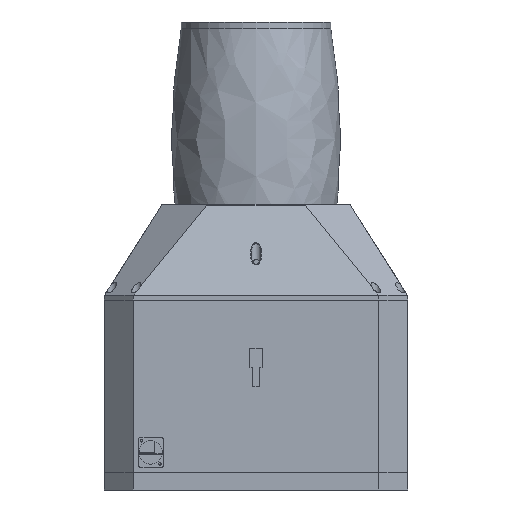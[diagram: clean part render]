
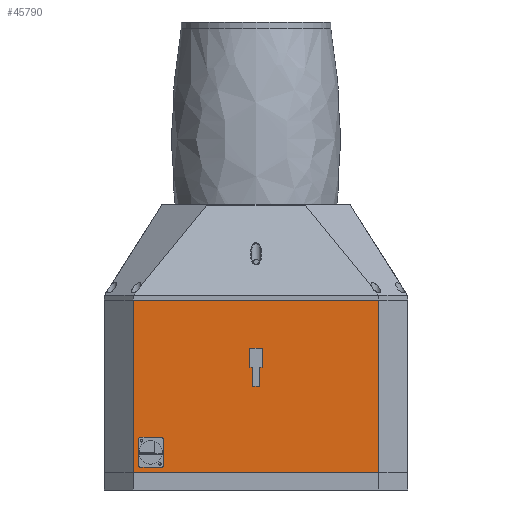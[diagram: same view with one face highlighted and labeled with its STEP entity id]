
A CAD part, left-side view. The second image highlights one B-rep face of the part: STEP entity #45790.
In plain terms, the highlighted planar face has unit normal (-1, 0, 0) as drawn and (1, 0, 0) by its records, which use the part's own axes.
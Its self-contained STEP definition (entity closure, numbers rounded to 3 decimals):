
#2791=FACE_BOUND('',#6713,.T.);
#2792=FACE_BOUND('',#6714,.T.);
#3879=FACE_OUTER_BOUND('',#6712,.T.);
#6712=EDGE_LOOP('',(#34049,#34050,#34051,#34052));
#6713=EDGE_LOOP('',(#34053,#34054,#34055,#34056,#34057,#34058,#34059,#34060));
#6714=EDGE_LOOP('',(#34061,#34062,#34063,#34064,#34065,#34066,#34067,#34068));
#9537=CIRCLE('',#49221,3.);
#9539=CIRCLE('',#49225,3.);
#9541=CIRCLE('',#49229,3.);
#9543=CIRCLE('',#49233,3.);
#11958=LINE('',#79737,#16215);
#11964=LINE('',#79752,#16221);
#11968=LINE('',#79764,#16225);
#11971=LINE('',#79773,#16228);
#11975=LINE('',#79796,#16232);
#11976=LINE('',#79798,#16233);
#11977=LINE('',#79800,#16234);
#11978=LINE('',#79801,#16235);
#11979=LINE('',#79804,#16236);
#11980=LINE('',#79806,#16237);
#11981=LINE('',#79808,#16238);
#11982=LINE('',#79810,#16239);
#11983=LINE('',#79812,#16240);
#11984=LINE('',#79814,#16241);
#11985=LINE('',#79816,#16242);
#11986=LINE('',#79817,#16243);
#16215=VECTOR('',#56138,10.);
#16221=VECTOR('',#56152,10.);
#16225=VECTOR('',#56164,10.);
#16228=VECTOR('',#56175,10.);
#16232=VECTOR('',#56201,10.);
#16233=VECTOR('',#56202,10.);
#16234=VECTOR('',#56203,10.);
#16235=VECTOR('',#56204,10.);
#16236=VECTOR('',#56205,10.);
#16237=VECTOR('',#56206,10.);
#16238=VECTOR('',#56207,10.);
#16239=VECTOR('',#56208,10.);
#16240=VECTOR('',#56209,10.);
#16241=VECTOR('',#56210,10.);
#16242=VECTOR('',#56211,10.);
#16243=VECTOR('',#56212,10.);
#20657=VERTEX_POINT('',#79730);
#20658=VERTEX_POINT('',#79732);
#20659=VERTEX_POINT('',#79736);
#20663=VERTEX_POINT('',#79745);
#20664=VERTEX_POINT('',#79747);
#20667=VERTEX_POINT('',#79757);
#20668=VERTEX_POINT('',#79759);
#20670=VERTEX_POINT('',#79768);
#20677=VERTEX_POINT('',#79794);
#20678=VERTEX_POINT('',#79795);
#20679=VERTEX_POINT('',#79797);
#20680=VERTEX_POINT('',#79799);
#20681=VERTEX_POINT('',#79802);
#20682=VERTEX_POINT('',#79803);
#20683=VERTEX_POINT('',#79805);
#20684=VERTEX_POINT('',#79807);
#20685=VERTEX_POINT('',#79809);
#20686=VERTEX_POINT('',#79811);
#20687=VERTEX_POINT('',#79813);
#20688=VERTEX_POINT('',#79815);
#25638=EDGE_CURVE('',#20657,#20658,#9537,.T.);
#25640=EDGE_CURVE('',#20659,#20658,#11958,.T.);
#25645=EDGE_CURVE('',#20663,#20664,#9539,.T.);
#25648=EDGE_CURVE('',#20657,#20664,#11964,.T.);
#25651=EDGE_CURVE('',#20667,#20668,#9541,.T.);
#25654=EDGE_CURVE('',#20663,#20668,#11968,.T.);
#25656=EDGE_CURVE('',#20659,#20670,#9543,.T.);
#25659=EDGE_CURVE('',#20667,#20670,#11971,.T.);
#25669=EDGE_CURVE('',#20677,#20678,#11975,.T.);
#25670=EDGE_CURVE('',#20678,#20679,#11976,.T.);
#25671=EDGE_CURVE('',#20680,#20679,#11977,.T.);
#25672=EDGE_CURVE('',#20677,#20680,#11978,.T.);
#25673=EDGE_CURVE('',#20681,#20682,#11979,.T.);
#25674=EDGE_CURVE('',#20682,#20683,#11980,.T.);
#25675=EDGE_CURVE('',#20683,#20684,#11981,.T.);
#25676=EDGE_CURVE('',#20684,#20685,#11982,.T.);
#25677=EDGE_CURVE('',#20685,#20686,#11983,.T.);
#25678=EDGE_CURVE('',#20686,#20687,#11984,.T.);
#25679=EDGE_CURVE('',#20687,#20688,#11985,.T.);
#25680=EDGE_CURVE('',#20688,#20681,#11986,.T.);
#34049=ORIENTED_EDGE('',*,*,#25669,.T.);
#34050=ORIENTED_EDGE('',*,*,#25670,.T.);
#34051=ORIENTED_EDGE('',*,*,#25671,.F.);
#34052=ORIENTED_EDGE('',*,*,#25672,.F.);
#34053=ORIENTED_EDGE('',*,*,#25654,.T.);
#34054=ORIENTED_EDGE('',*,*,#25651,.F.);
#34055=ORIENTED_EDGE('',*,*,#25659,.T.);
#34056=ORIENTED_EDGE('',*,*,#25656,.F.);
#34057=ORIENTED_EDGE('',*,*,#25640,.T.);
#34058=ORIENTED_EDGE('',*,*,#25638,.F.);
#34059=ORIENTED_EDGE('',*,*,#25648,.T.);
#34060=ORIENTED_EDGE('',*,*,#25645,.F.);
#34061=ORIENTED_EDGE('',*,*,#25673,.T.);
#34062=ORIENTED_EDGE('',*,*,#25674,.T.);
#34063=ORIENTED_EDGE('',*,*,#25675,.T.);
#34064=ORIENTED_EDGE('',*,*,#25676,.T.);
#34065=ORIENTED_EDGE('',*,*,#25677,.T.);
#34066=ORIENTED_EDGE('',*,*,#25678,.T.);
#34067=ORIENTED_EDGE('',*,*,#25679,.T.);
#34068=ORIENTED_EDGE('',*,*,#25680,.T.);
#43992=PLANE('',#49245);
#45790=ADVANCED_FACE('',(#3879,#2791,#2792),#43992,.T.);
#49221=AXIS2_PLACEMENT_3D('',#79733,#56133,#56134);
#49225=AXIS2_PLACEMENT_3D('',#79748,#56146,#56147);
#49229=AXIS2_PLACEMENT_3D('',#79760,#56158,#56159);
#49233=AXIS2_PLACEMENT_3D('',#79769,#56169,#56170);
#49245=AXIS2_PLACEMENT_3D('',#79793,#56199,#56200);
#56133=DIRECTION('center_axis',(1.,0.,0.));
#56134=DIRECTION('ref_axis',(0.,0.707,-0.707));
#56138=DIRECTION('',(0.,0.,-1.));
#56146=DIRECTION('center_axis',(1.,0.,0.));
#56147=DIRECTION('ref_axis',(0.,-0.707,-0.707));
#56152=DIRECTION('',(0.,-1.,0.));
#56158=DIRECTION('center_axis',(1.,0.,0.));
#56159=DIRECTION('ref_axis',(0.,-0.707,0.707));
#56164=DIRECTION('',(0.,0.,1.));
#56169=DIRECTION('center_axis',(1.,0.,0.));
#56170=DIRECTION('ref_axis',(0.,0.707,0.707));
#56175=DIRECTION('',(0.,1.,0.));
#56199=DIRECTION('center_axis',(1.,0.,0.));
#56200=DIRECTION('ref_axis',(0.,1.,0.));
#56201=DIRECTION('',(0.,1.,0.));
#56202=DIRECTION('',(0.,0.,1.));
#56203=DIRECTION('',(0.,1.,0.));
#56204=DIRECTION('',(0.,0.,1.));
#56205=DIRECTION('',(0.,1.,0.));
#56206=DIRECTION('',(0.,0.,-1.));
#56207=DIRECTION('',(0.,-1.,0.));
#56208=DIRECTION('',(0.,0.,-1.));
#56209=DIRECTION('',(0.,-1.,0.));
#56210=DIRECTION('',(0.,0.,1.));
#56211=DIRECTION('',(0.,-1.,0.));
#56212=DIRECTION('',(0.,0.,1.));
#79730=CARTESIAN_POINT('',(174.7,-99.5,8.5));
#79732=CARTESIAN_POINT('',(174.7,-96.5,11.5));
#79733=CARTESIAN_POINT('Origin',(174.7,-99.5,11.5));
#79736=CARTESIAN_POINT('',(174.7,-96.5,37.));
#79737=CARTESIAN_POINT('',(174.7,-96.5,21.5));
#79745=CARTESIAN_POINT('',(174.7,-123.,11.5));
#79747=CARTESIAN_POINT('',(174.7,-120.,8.5));
#79748=CARTESIAN_POINT('Origin',(174.7,-120.,11.5));
#79752=CARTESIAN_POINT('',(174.7,-112.25,8.5));
#79757=CARTESIAN_POINT('',(174.7,-120.,40.));
#79759=CARTESIAN_POINT('',(174.7,-123.,37.));
#79760=CARTESIAN_POINT('Origin',(174.7,-120.,37.));
#79764=CARTESIAN_POINT('',(174.7,-123.,5.75));
#79768=CARTESIAN_POINT('',(174.7,-99.5,40.));
#79769=CARTESIAN_POINT('Origin',(174.7,-99.5,37.));
#79773=CARTESIAN_POINT('',(174.7,-125.5,40.));
#79793=CARTESIAN_POINT('Origin',(174.7,-128.,3.));
#79794=CARTESIAN_POINT('',(174.7,-128.,3.));
#79795=CARTESIAN_POINT('',(174.7,128.,3.));
#79796=CARTESIAN_POINT('',(174.7,-128.,3.));
#79797=CARTESIAN_POINT('',(174.7,128.,183.));
#79798=CARTESIAN_POINT('',(174.7,128.,3.));
#79799=CARTESIAN_POINT('',(174.7,-128.,183.));
#79800=CARTESIAN_POINT('',(174.7,-128.,183.));
#79801=CARTESIAN_POINT('',(174.7,-128.,3.));
#79802=CARTESIAN_POINT('',(174.7,-6.3,133.));
#79803=CARTESIAN_POINT('',(174.7,6.3,133.));
#79804=CARTESIAN_POINT('',(174.7,-61.6,133.));
#79805=CARTESIAN_POINT('',(174.7,6.3,113.));
#79806=CARTESIAN_POINT('',(174.7,6.3,68.));
#79807=CARTESIAN_POINT('',(174.7,3.3,113.));
#79808=CARTESIAN_POINT('',(174.7,-61.6,113.));
#79809=CARTESIAN_POINT('',(174.7,3.3,93.));
#79810=CARTESIAN_POINT('',(174.7,3.3,68.));
#79811=CARTESIAN_POINT('',(174.7,-3.3,93.));
#79812=CARTESIAN_POINT('',(174.7,-64.,93.));
#79813=CARTESIAN_POINT('',(174.7,-3.3,113.));
#79814=CARTESIAN_POINT('',(174.7,-3.3,68.));
#79815=CARTESIAN_POINT('',(174.7,-6.3,113.));
#79816=CARTESIAN_POINT('',(174.7,-66.4,113.));
#79817=CARTESIAN_POINT('',(174.7,-6.3,68.));
